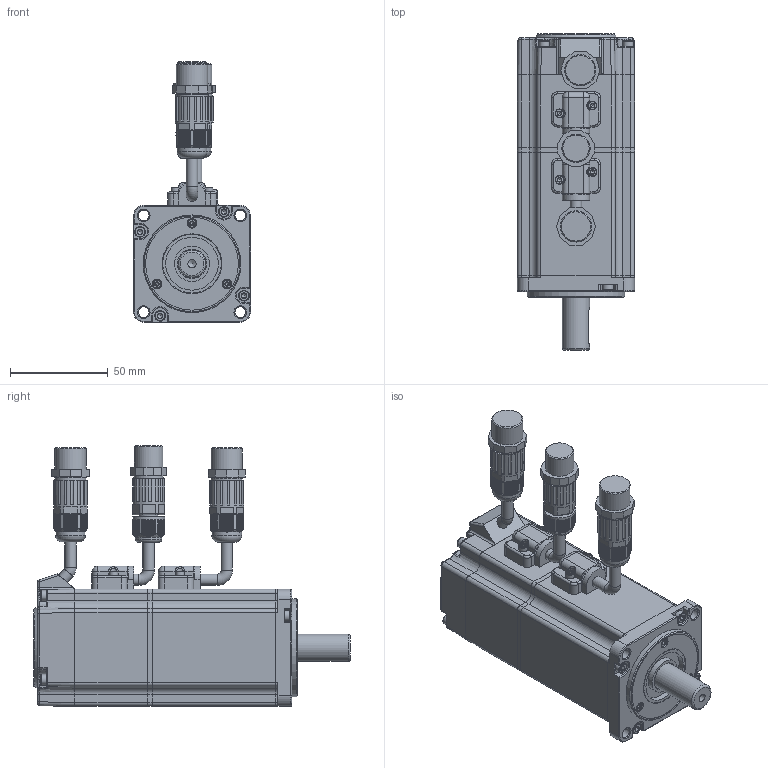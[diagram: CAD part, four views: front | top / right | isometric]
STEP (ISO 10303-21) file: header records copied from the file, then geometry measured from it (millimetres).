
FILE_DESCRIPTION(/* description */ (''),/* implementation_level */ '2;1');
FILE_NAME(/* name */ '60SY-M01330LCMS1-Z.stp',/* time_stamp */ '2024-01-04T11:05:35+08:00',/* author */ (''),/* organization */ (''),/* preprocessor_version */ 'ST-DEVELOPER v18.1',/* originating_system */ 'SIEMENS PLM Software NX 2000',/* authorisation */ '');
FILE_SCHEMA (('AUTOMOTIVE_DESIGN { 1 0 10303 214 3 1 1 1 }'));
Products named in the file (1): 磁编刹车
Bounding box: 60 x 162 x 133.49 mm (x, y, z)
Volume: 466330.5 mm3; surface area: 97901.8 mm2
Topology: 31 solids, 39 shells, 2704 faces, 7051 edges, 4450 vertices
Faces by surface type: plane 1910, cylinder 363, sphere 146, cone 141, torus 95, bspline 49
Full cylindrical faces by diameter (mm): 2.05 x3, 2.38 x7, 2.5 x10, 2.6 x4, 2.874 x8, 2.9 x3, 3.4 x4, 3.479 x4, 3.5 x8, 4.2 x1, 4.5 x7, 5 x3, 5.5 x12, 5.8 x8, 6 x1, 10 x1, 13 x2, 13.5 x1, 14 x1, 14.5 x1, 14.8 x1, 15 x2, 15.3 x2, 15.6 x2, 16 x2, 16.1 x2, 16.5 x2, 17.3 x2, 18 x1, 22.5 x1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
Entity records: 83201 total; most frequent: CARTESIAN_POINT 20944, ORIENTED_EDGE 13532, DIRECTION 11461, EDGE_CURVE 6766, VERTEX_POINT 4395, AXIS2_PLACEMENT_3D 3881, LINE 3699, VECTOR 3699
